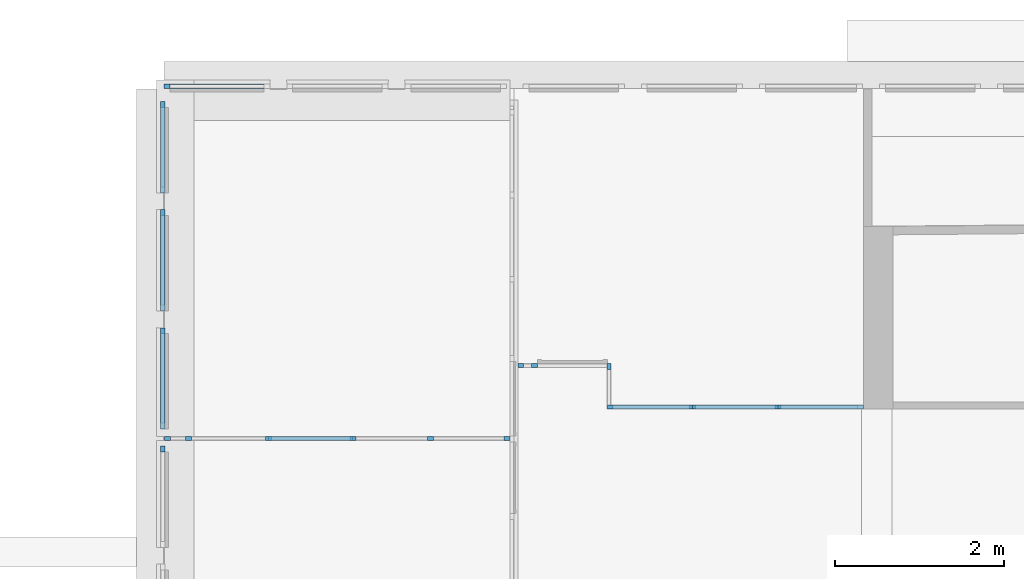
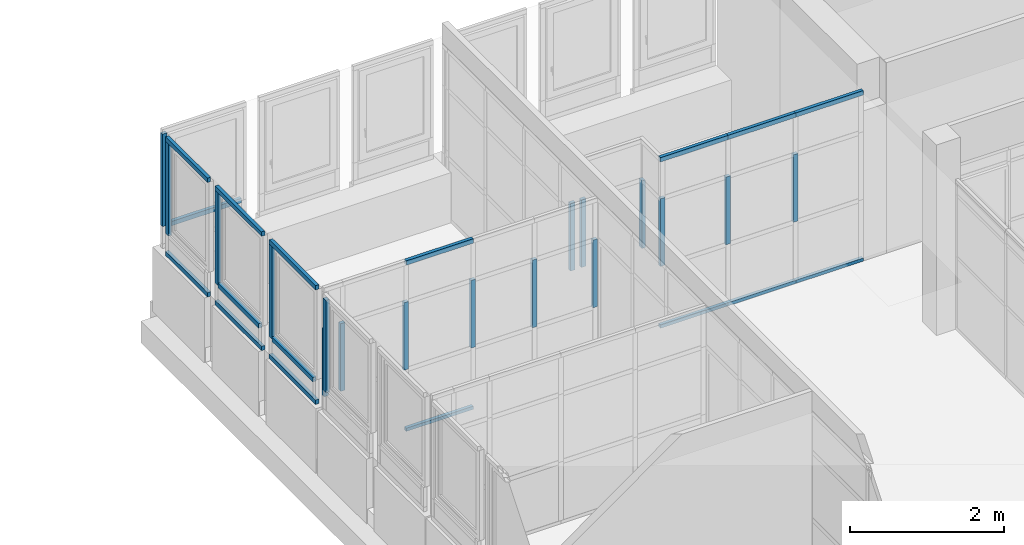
# One storey, part 10 of 97: 34 members, 9 elements without a shape of their own.
"""IFC4 building model written with IfcOpenShell, lengths in metres."""

from ifc_helpers import new_model, entity, si_unit, converted_unit, derived_unit, direction, frame, origin, place, context, subcontext, project, spatial, indexed_curve, outline, extrude, source, transform, mapped, material, type_object, type_shapes, element, aggregate, save


model = new_model("IFC4")

# Units and contexts
model_context = context("Model", 3, precision=1e-05, world=origin(), true_north=direction((6.12303176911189e-17, 1.0)))
body_context = subcontext(model_context, "Body", "Model", "MODEL_VIEW")
ifc_project = project(units=[si_unit("LENGTHUNIT", "METRE"), si_unit("AREAUNIT", "SQUARE_METRE"), si_unit("VOLUMEUNIT", "CUBIC_METRE"), converted_unit("PLANEANGLEUNIT", "DEGREE", entity("IfcRatioMeasure", 0.0174532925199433), si_unit("PLANEANGLEUNIT", "RADIAN"), dimensions=[0, 0, 0, 0, 0, 0, 0]), si_unit("MASSUNIT", "GRAM", prefix="KILO"), derived_unit("MASSDENSITYUNIT", [(si_unit("MASSUNIT", "GRAM", prefix="KILO"), 1), (si_unit("LENGTHUNIT", "METRE"), -3)]), derived_unit("MOMENTOFINERTIAUNIT", [(si_unit("LENGTHUNIT", "METRE"), 4)]), si_unit("TIMEUNIT", "SECOND"), si_unit("FREQUENCYUNIT", "HERTZ"), si_unit("THERMODYNAMICTEMPERATUREUNIT", "DEGREE_CELSIUS"), derived_unit("THERMALTRANSMITTANCEUNIT", [(si_unit("MASSUNIT", "GRAM", prefix="KILO"), 1), (si_unit("THERMODYNAMICTEMPERATUREUNIT", "KELVIN"), -1), (si_unit("TIMEUNIT", "SECOND"), -3)]), derived_unit("VOLUMETRICFLOWRATEUNIT", [(si_unit("LENGTHUNIT", "METRE"), 3), (si_unit("TIMEUNIT", "SECOND"), -1)]), si_unit("ELECTRICCURRENTUNIT", "AMPERE"), si_unit("ELECTRICVOLTAGEUNIT", "VOLT"), si_unit("POWERUNIT", "WATT"), si_unit("FORCEUNIT", "NEWTON", prefix="KILO"), si_unit("ILLUMINANCEUNIT", "LUX"), si_unit("LUMINOUSFLUXUNIT", "LUMEN"), si_unit("LUMINOUSINTENSITYUNIT", "CANDELA"), derived_unit("USERDEFINED", [(si_unit("MASSUNIT", "GRAM", prefix="KILO"), -1), (si_unit("LENGTHUNIT", "METRE"), -2), (si_unit("TIMEUNIT", "SECOND"), 3), (si_unit("LUMINOUSFLUXUNIT", "LUMEN"), 1)]), derived_unit("LINEARVELOCITYUNIT", [(si_unit("LENGTHUNIT", "METRE"), 1), (si_unit("TIMEUNIT", "SECOND"), -1)]), si_unit("PRESSUREUNIT", "PASCAL"), derived_unit("USERDEFINED", [(si_unit("LENGTHUNIT", "METRE"), -2), (si_unit("MASSUNIT", "GRAM", prefix="KILO"), 1), (si_unit("TIMEUNIT", "SECOND"), -2)]), derived_unit("LINEARFORCEUNIT", [(si_unit("MASSUNIT", "GRAM", prefix="KILO"), 1), (si_unit("LENGTHUNIT", "METRE"), 1), (si_unit("TIMEUNIT", "SECOND"), -2), (si_unit("LENGTHUNIT", "METRE"), -1)]), derived_unit("PLANARFORCEUNIT", [(si_unit("MASSUNIT", "GRAM", prefix="KILO"), 1), (si_unit("LENGTHUNIT", "METRE"), 1), (si_unit("TIMEUNIT", "SECOND"), -2), (si_unit("LENGTHUNIT", "METRE"), -2)])], contexts=[model_context])

# Site, building, storey
site_placement = place(None, origin())
site = spatial("IfcSite", under=ifc_project, at=site_placement, Name="Default", CompositionType="ELEMENT")
building_placement = place(site_placement, origin())
building = spatial("IfcBuilding", under=site, at=building_placement, Name="HOTEL CONSULAIRE BOULOGNE SUR MER", CompositionType="ELEMENT")
storey_placement = place(building_placement, frame((0.0, 0.0, 3.62152697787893)))
storey = spatial("IfcBuildingStorey", under=building, at=storey_placement, Name="Niveau 1", CompositionType="ELEMENT", Elevation=3.62152697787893)

# Curtain wall, member
curtain_wall_type = type_object("IfcCurtainWallType", Name="Mur-rideau:Simple panneau", PredefinedType="NOTDEFINED")
curtain_wall_1_placement = place(storey_placement, frame((0.0, 0.0, -3.62152697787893)))
curtain_wall_1 = element("IfcCurtainWall", 1, at=curtain_wall_1_placement, inside=storey, type_object=curtain_wall_type, Name="Mur-rideau:Simple panneau", ObjectType="Mur-rideau:Simple panneau", PredefinedType="NOTDEFINED")
ifc_material_1 = material(Name="PVC - Blanc", Category="Plastique")
member_type_1 = type_object("IfcMemberType", Name="Meneau rectangulaire:50 x 35", PredefinedType="MULLION", material=ifc_material_1)
shared_shape_1 = source(origin(), body_context, "Body", "SweptSolid", [
    extrude(outline(indexed_curve([(-0.025, -0.035), (0.025, -0.035), (0.025, 0.035), (-0.025, 0.035), (-0.025, -0.035)], self_intersect=False)), frame((-0.035, -0.025, -1.20000000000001), z_axis=(0.0, 0.0, 1.0), x_axis=(0.0, -1.0, 0.0)), (0.0, 0.0, 1.0), 1.20000000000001),
])
type_shapes(member_type_1, [shared_shape_1])
member_1_placement = place(storey_placement, frame((-13.7870998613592, -14.1114499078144, 0.791612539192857), z_axis=(0.0, -1.0, 0.0), x_axis=(0.0, 0.0, -1.0)))
member_1 = element("IfcMember", 2, at=member_1_placement, type_object=member_type_1, material=ifc_material_1, Name="Meneau rectangulaire:50 x 35", ObjectType="Meneau rectangulaire:50 x 35", PredefinedType="MULLION", context=body_context, shape_type="MappedRepresentation", body=[
    mapped(shared_shape_1, transform((0.0, 0.0, 0.0), scale=1.0)),
])

curtain_wall_2_placement = place(storey_placement, frame((0.0, 0.0, -3.62152697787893)))
curtain_wall_2 = element("IfcCurtainWall", 3, at=curtain_wall_2_placement, inside=storey, type_object=curtain_wall_type, Name="Mur-rideau:Simple panneau", ObjectType="Mur-rideau:Simple panneau", PredefinedType="NOTDEFINED")
member_2_placement = place(storey_placement, frame((-13.7870998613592, -12.7114499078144, 0.791612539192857), z_axis=(0.0, -1.0, 0.0), x_axis=(0.0, 0.0, -1.0)))
member_2 = element("IfcMember", 4, at=member_2_placement, type_object=member_type_1, material=ifc_material_1, Name="Meneau rectangulaire:50 x 35", ObjectType="Meneau rectangulaire:50 x 35", PredefinedType="MULLION", context=body_context, shape_type="MappedRepresentation", body=[
    mapped(shared_shape_1, transform((0.0, 0.0, 0.0), scale=1.0)),
])

# Member
member_type_2 = type_object("IfcMemberType", Name="Meneau rectangulaire:50 x 35", PredefinedType="MULLION", material=ifc_material_1)
shared_shape_2 = source(origin(), body_context, "Body", "SweptSolid", [
    extrude(outline(indexed_curve([(-0.025, -0.035), (0.025, -0.035), (0.025, 0.035), (-0.025, 0.035), (-0.025, -0.035)], self_intersect=False)), frame((0.0, -0.025, -1.06000000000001), z_axis=(0.0, 0.0, 1.0), x_axis=(0.0, -1.0, 0.0)), (0.0, 0.0, 1.0), 1.06000000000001),
])
type_shapes(member_type_2, [shared_shape_2])
member_3_placement = place(storey_placement, frame((-13.7870998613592, -12.9814499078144, 1.13961253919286), z_axis=(0.0, 1.0, 0.0), x_axis=(0.0, 0.0, 1.0)))
member_3 = element("IfcMember", 5, at=member_3_placement, type_object=member_type_2, material=ifc_material_1, Name="Meneau rectangulaire:50 x 35", ObjectType="Meneau rectangulaire:50 x 35", PredefinedType="MULLION", context=body_context, shape_type="MappedRepresentation", body=[
    mapped(shared_shape_2, transform((0.0, 0.0, 0.0), scale=1.0)),
])

member_4_placement = place(storey_placement, frame((-13.7870998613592, -11.5814499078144, 1.13961253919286), z_axis=(0.0, 1.0, 0.0), x_axis=(0.0, 0.0, 1.0)))
member_4 = element("IfcMember", 6, at=member_4_placement, type_object=member_type_2, material=ifc_material_1, Name="Meneau rectangulaire:50 x 35", ObjectType="Meneau rectangulaire:50 x 35", PredefinedType="MULLION", context=body_context, shape_type="MappedRepresentation", body=[
    mapped(shared_shape_2, transform((0.0, 0.0, 0.0), scale=1.0)),
])

# Curtain wall, member
curtain_wall_3_placement = place(storey_placement, frame((0.0, 0.0, -3.62152697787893)))
curtain_wall_3 = element("IfcCurtainWall", 7, at=curtain_wall_3_placement, inside=storey, type_object=curtain_wall_type, Name="Mur-rideau:Simple panneau", ObjectType="Mur-rideau:Simple panneau", PredefinedType="NOTDEFINED")
member_type_3 = type_object("IfcMemberType", Name="Meneau rectangulaire:50 x 35", PredefinedType="MULLION", material=ifc_material_1)
shared_shape_3 = source(origin(), body_context, "Body", "SweptSolid", [
    extrude(outline(indexed_curve([(-0.025, -0.035), (0.025, -0.035), (0.025, 0.035), (-0.025, 0.035), (-0.025, -0.035)], self_intersect=False)), frame((-0.035, -0.025, -1.46086048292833), z_axis=(0.0, 0.0, 1.0), x_axis=(0.0, -1.0, 0.0)), (0.0, 0.0, 1.0), 1.46086048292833),
])
type_shapes(member_type_3, [shared_shape_3])
member_5_placement = place(storey_placement, frame((-13.7870998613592, -14.3114499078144, 1.13961253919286), z_axis=(0.0, 0.0, -1.0), x_axis=(0.0, 1.0, 0.0)))
member_5 = element("IfcMember", 8, at=member_5_placement, type_object=member_type_3, material=ifc_material_1, Name="Meneau rectangulaire:50 x 35", ObjectType="Meneau rectangulaire:50 x 35", PredefinedType="MULLION", context=body_context, shape_type="MappedRepresentation", body=[
    mapped(shared_shape_3, transform((0.0, 0.0, 0.0), scale=1.0)),
])
aggregate(curtain_wall_3, [member_5])

# Member
member_6_placement = place(storey_placement, frame((-13.7870998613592, -12.9114499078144, 1.13961253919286), z_axis=(0.0, 0.0, -1.0), x_axis=(0.0, 1.0, 0.0)))
member_6 = element("IfcMember", 9, at=member_6_placement, type_object=member_type_3, material=ifc_material_1, Name="Meneau rectangulaire:50 x 35", ObjectType="Meneau rectangulaire:50 x 35", PredefinedType="MULLION", context=body_context, shape_type="MappedRepresentation", body=[
    mapped(shared_shape_3, transform((0.0, 0.0, 0.0), scale=1.0)),
])

member_7_placement = place(storey_placement, frame((-13.7870998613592, -11.5114499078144, 1.13961253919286), z_axis=(0.0, 0.0, -1.0), x_axis=(0.0, 1.0, 0.0)))
member_7 = element("IfcMember", 10, at=member_7_placement, type_object=member_type_3, material=ifc_material_1, Name="Meneau rectangulaire:50 x 35", ObjectType="Meneau rectangulaire:50 x 35", PredefinedType="MULLION", context=body_context, shape_type="MappedRepresentation", body=[
    mapped(shared_shape_3, transform((0.0, 0.0, 0.0), scale=1.0)),
])

# Curtain wall, member
curtain_wall_4_placement = place(storey_placement, frame((0.0, 0.0, -3.62152697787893)))
curtain_wall_4 = element("IfcCurtainWall", 11, at=curtain_wall_4_placement, inside=storey, type_object=curtain_wall_type, Name="Mur-rideau:Simple panneau", ObjectType="Mur-rideau:Simple panneau", PredefinedType="NOTDEFINED")
member_8_placement = place(storey_placement, frame((-13.7870998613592, -10.2303241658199, 1.13961253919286), z_axis=(0.0, 0.0, -1.0), x_axis=(0.0, 1.0, 0.0)))
member_8 = element("IfcMember", 12, at=member_8_placement, type_object=member_type_3, material=ifc_material_1, Name="Meneau rectangulaire:50 x 35", ObjectType="Meneau rectangulaire:50 x 35", PredefinedType="MULLION", context=body_context, shape_type="MappedRepresentation", body=[
    mapped(shared_shape_3, transform((0.0, 0.0, 0.0), scale=1.0)),
])

# Member
member_type_4 = type_object("IfcMemberType", Name="Meneau rectangulaire:50 x 35", PredefinedType="MULLION", material=ifc_material_1)
shared_shape_4 = source(origin(), body_context, "Body", "SweptSolid", [
    extrude(outline(indexed_curve([(-0.025, -0.035), (0.025, -0.035), (0.025, 0.035), (-0.025, 0.035), (-0.025, -0.035)], self_intersect=False)), frame((-0.035, -0.025, -1.20000000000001), z_axis=(0.0, 0.0, 1.0), x_axis=(0.0, -1.0, 0.0)), (0.0, 0.0, 1.0), 1.20000000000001),
])
type_shapes(member_type_4, [shared_shape_4])
member_9_placement = place(storey_placement, frame((-13.7870998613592, -12.9114499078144, 2.67047302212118), z_axis=(0.0, 1.0, 0.0), x_axis=(0.0, 0.0, 1.0)))
member_9 = element("IfcMember", 13, at=member_9_placement, type_object=member_type_4, material=ifc_material_1, Name="Meneau rectangulaire:50 x 35", ObjectType="Meneau rectangulaire:50 x 35", PredefinedType="MULLION", context=body_context, shape_type="MappedRepresentation", body=[
    mapped(shared_shape_4, transform((0.0, 0.0, 0.0), scale=1.0)),
])

aggregate(curtain_wall_1, [member_9, member_1, member_3, member_6])

member_10_placement = place(storey_placement, frame((-13.7870998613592, -11.5114499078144, 2.67047302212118), z_axis=(0.0, 1.0, 0.0), x_axis=(0.0, 0.0, 1.0)))
member_10 = element("IfcMember", 14, at=member_10_placement, type_object=member_type_4, material=ifc_material_1, Name="Meneau rectangulaire:50 x 35", ObjectType="Meneau rectangulaire:50 x 35", PredefinedType="MULLION", context=body_context, shape_type="MappedRepresentation", body=[
    mapped(shared_shape_4, transform((0.0, 0.0, 0.0), scale=1.0)),
])

aggregate(curtain_wall_2, [member_10, member_2, member_4, member_7])

member_type_5 = type_object("IfcMemberType", Name="Meneau rectangulaire:50 x 35", PredefinedType="MULLION", material=ifc_material_1)
shared_shape_5 = source(origin(), body_context, "Body", "SweptSolid", [
    extrude(outline(indexed_curve([(-0.025, -0.035), (0.025, -0.035), (0.025, 0.035), (-0.025, 0.035), (-0.025, -0.035)], self_intersect=False)), frame((-0.035, -0.025, -1.08112574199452), z_axis=(0.0, 0.0, 1.0), x_axis=(0.0, -1.0, 0.0)), (0.0, 0.0, 1.0), 1.08112574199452),
])
type_shapes(member_type_5, [shared_shape_5])
member_11_placement = place(storey_placement, frame((-13.7870998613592, -10.2303241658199, 2.67047302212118), z_axis=(0.0, 1.0, 0.0), x_axis=(0.0, 0.0, 1.0)))
member_11 = element("IfcMember", 15, at=member_11_placement, type_object=member_type_5, material=ifc_material_1, Name="Meneau rectangulaire:50 x 35", ObjectType="Meneau rectangulaire:50 x 35", PredefinedType="MULLION", context=body_context, shape_type="MappedRepresentation", body=[
    mapped(shared_shape_5, transform((0.0, 0.0, 0.0), scale=1.0)),
])

member_type_6 = type_object("IfcMemberType", Name="Meneau rectangulaire:50 x 35", PredefinedType="MULLION", material=ifc_material_1)
shared_shape_6 = source(origin(), body_context, "Body", "SweptSolid", [
    extrude(outline(indexed_curve([(-0.025, -0.035), (0.025, -0.035), (0.025, 0.035), (-0.025, 0.035), (-0.025, -0.035)], self_intersect=False)), frame((-0.035, -0.025, -1.08112574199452), z_axis=(0.0, 0.0, 1.0), x_axis=(0.0, -1.0, 0.0)), (0.0, 0.0, 1.0), 1.08112574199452),
])
type_shapes(member_type_6, [shared_shape_6])
member_12_placement = place(storey_placement, frame((-13.7870998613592, -11.3114499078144, 0.791612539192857), z_axis=(0.0, -1.0, 0.0), x_axis=(0.0, 0.0, -1.0)))
member_12 = element("IfcMember", 16, at=member_12_placement, type_object=member_type_6, material=ifc_material_1, Name="Meneau rectangulaire:50 x 35", ObjectType="Meneau rectangulaire:50 x 35", PredefinedType="MULLION", context=body_context, shape_type="MappedRepresentation", body=[
    mapped(shared_shape_6, transform((0.0, 0.0, 0.0), scale=1.0)),
])

aggregate(curtain_wall_4, [member_11, member_12, member_8])

# Curtain wall, members
curtain_wall_5_placement = place(storey_placement, frame((0.0, 0.0, -3.62152697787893)))
curtain_wall_5 = element("IfcCurtainWall", 17, at=curtain_wall_5_placement, inside=storey, type_object=curtain_wall_type, Name="Mur-rideau:Simple panneau", ObjectType="Mur-rideau:Simple panneau", PredefinedType="NOTDEFINED")
member_type_7 = type_object("IfcMemberType", Name="Meneau rectangulaire:50 x 35", PredefinedType="MULLION", material=ifc_material_1)
shared_shape_7 = source(origin(), body_context, "Body", "SweptSolid", [
    extrude(outline(indexed_curve([(-0.025, -0.035), (0.025, -0.035), (0.025, 0.035), (-0.025, 0.035), (-0.025, -0.035)], self_intersect=False)), frame((-0.035, -0.025, -1.46086048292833), z_axis=(0.0, 0.0, 1.0), x_axis=(0.0, -1.0, 0.0)), (0.0, 0.0, 1.0), 1.46086048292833),
])
type_shapes(member_type_7, [shared_shape_7])
member_13_placement = place(storey_placement, frame((-13.7939806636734, -10.0746323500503, 2.60047302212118), z_axis=(0.0, 0.0, 1.0), x_axis=(-1.0, 0.0, 0.0)))
member_13 = element("IfcMember", 18, at=member_13_placement, type_object=member_type_7, material=ifc_material_1, Name="Meneau rectangulaire:50 x 35", ObjectType="Meneau rectangulaire:50 x 35", PredefinedType="MULLION", context=body_context, shape_type="MappedRepresentation", body=[
    mapped(shared_shape_7, transform((0.0, 0.0, 0.0), scale=1.0)),
])
member_type_8 = type_object("IfcMemberType", Name="Meneau rectangulaire:50 x 35", PredefinedType="MULLION", material=ifc_material_1)
shared_shape_8 = source(origin(), body_context, "Body", "SweptSolid", [
    extrude(outline(indexed_curve([(-0.025, -0.035), (0.025, -0.035), (0.025, 0.035), (-0.025, 0.035), (-0.025, -0.035)], self_intersect=False)), frame((0.0, -0.025, -1.11256068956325), z_axis=(0.0, 0.0, 1.0), x_axis=(0.0, -1.0, 0.0)), (0.0, 0.0, 1.0), 1.11256068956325),
])
type_shapes(member_type_8, [shared_shape_8])
member_14_placement = place(storey_placement, frame((-12.6114199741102, -10.0746323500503, 1.13961253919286), z_axis=(1.0, 0.0, 0.0), x_axis=(0.0, 0.0, 1.0)))
member_14 = element("IfcMember", 19, at=member_14_placement, type_object=member_type_8, material=ifc_material_1, Name="Meneau rectangulaire:50 x 35", ObjectType="Meneau rectangulaire:50 x 35", PredefinedType="MULLION", context=body_context, shape_type="MappedRepresentation", body=[
    mapped(shared_shape_8, transform((0.0, 0.0, 0.0), scale=1.0)),
])
aggregate(curtain_wall_5, [member_14, member_13])

curtain_wall_6_placement = place(storey_placement, frame((0.0, 0.0, -3.62152697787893)))
curtain_wall_6 = element("IfcCurtainWall", 20, at=curtain_wall_6_placement, inside=storey, type_object=curtain_wall_type, Name="Mur-rideau:Simple panneau", ObjectType="Mur-rideau:Simple panneau", PredefinedType="NOTDEFINED")
ifc_material_2 = material(Name="PVC, souple", Category="Plastique")
member_type_9 = type_object("IfcMemberType", Name="Meneau rectangulaire:50 x 35 pvc gris", PredefinedType="MULLION", material=ifc_material_2)
shared_shape_9 = source(origin(), body_context, "Body", "SweptSolid", [
    extrude(outline(indexed_curve([(-0.025, -0.035), (0.025, -0.035), (0.025, 0.035), (-0.025, 0.035), (-0.025, -0.035)], self_intersect=False)), frame((-0.035, -0.025, -1.06896046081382), z_axis=(0.0, 0.0, 1.0), x_axis=(0.0, -1.0, 0.0)), (0.0, 0.0, 1.0), 1.06896046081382),
])
type_shapes(member_type_9, [shared_shape_9])
member_15_placement = place(storey_placement, frame((-13.7881025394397, -14.2474499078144, 2.04596046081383), z_axis=(0.0, 0.0, 1.0), x_axis=(-1.0, 0.0, 0.0)))
member_15 = element("IfcMember", 21, at=member_15_placement, type_object=member_type_9, material=ifc_material_2, Name="Meneau rectangulaire:50 x 35 pvc gris", ObjectType="Meneau rectangulaire:50 x 35 pvc gris", PredefinedType="MULLION", context=body_context, shape_type="MappedRepresentation", body=[
    mapped(shared_shape_9, transform((0.0, 0.0, 0.0), scale=1.0)),
])
member_type_10 = type_object("IfcMemberType", Name="Meneau rectangulaire:50 x 35 pvc gris", PredefinedType="MULLION", material=ifc_material_2)
shared_shape_10 = source(origin(), body_context, "Body", "SweptSolid", [
    extrude(outline(indexed_curve([(-0.025, -0.035), (0.025, -0.035), (0.025, 0.035), (-0.025, 0.035), (-0.025, -0.035)], self_intersect=False)), frame((0.0, -0.025, -1.06896046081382), z_axis=(0.0, 0.0, 1.0), x_axis=(0.0, -1.0, 0.0)), (0.0, 0.0, 1.0), 1.06896046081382),
])
type_shapes(member_type_10, [shared_shape_10])
member_16_placement = place(storey_placement, frame((-13.5061025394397, -14.2474499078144, 0.977000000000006), z_axis=(0.0, 0.0, -1.0), x_axis=(1.0, 0.0, 0.0)))
member_16 = element("IfcMember", 22, at=member_16_placement, type_object=member_type_10, material=ifc_material_2, Name="Meneau rectangulaire:50 x 35 pvc gris", ObjectType="Meneau rectangulaire:50 x 35 pvc gris", PredefinedType="MULLION", context=body_context, shape_type="MappedRepresentation", body=[
    mapped(shared_shape_10, transform((0.0, 0.0, 0.0), scale=1.0)),
])
member_17_placement = place(storey_placement, frame((-12.5580998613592, -14.2474499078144, 0.977000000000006), z_axis=(0.0, 0.0, -1.0), x_axis=(1.0, 0.0, 0.0)))
member_17 = element("IfcMember", 23, at=member_17_placement, type_object=member_type_10, material=ifc_material_2, Name="Meneau rectangulaire:50 x 35 pvc gris", ObjectType="Meneau rectangulaire:50 x 35 pvc gris", PredefinedType="MULLION", context=body_context, shape_type="MappedRepresentation", body=[
    mapped(shared_shape_10, transform((0.0, 0.0, 0.0), scale=1.0)),
])
member_18_placement = place(storey_placement, frame((-11.5550998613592, -14.2474499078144, 0.977000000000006), z_axis=(0.0, 0.0, -1.0), x_axis=(1.0, 0.0, 0.0)))
member_18 = element("IfcMember", 24, at=member_18_placement, type_object=member_type_10, material=ifc_material_2, Name="Meneau rectangulaire:50 x 35 pvc gris", ObjectType="Meneau rectangulaire:50 x 35 pvc gris", PredefinedType="MULLION", context=body_context, shape_type="MappedRepresentation", body=[
    mapped(shared_shape_10, transform((0.0, 0.0, 0.0), scale=1.0)),
])
member_19_placement = place(storey_placement, frame((-10.6380998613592, -14.2474499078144, 0.977000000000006), z_axis=(0.0, 0.0, -1.0), x_axis=(1.0, 0.0, 0.0)))
member_19 = element("IfcMember", 25, at=member_19_placement, type_object=member_type_10, material=ifc_material_2, Name="Meneau rectangulaire:50 x 35 pvc gris", ObjectType="Meneau rectangulaire:50 x 35 pvc gris", PredefinedType="MULLION", context=body_context, shape_type="MappedRepresentation", body=[
    mapped(shared_shape_10, transform((0.0, 0.0, 0.0), scale=1.0)),
])

# Curtain wall, member
curtain_wall_7_placement = place(storey_placement, frame((0.0, 0.0, -3.62152697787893)))
curtain_wall_7 = element("IfcCurtainWall", 26, at=curtain_wall_7_placement, inside=storey, type_object=curtain_wall_type, Name="Mur-rideau:Simple panneau", ObjectType="Mur-rideau:Simple panneau", PredefinedType="NOTDEFINED")
member_20_placement = place(storey_placement, frame((-9.40862464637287, -13.3345509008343, 0.977000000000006), z_axis=(0.0, 0.0, -1.0), x_axis=(-1.0, 0.0, 0.0)))
member_20 = element("IfcMember", 27, at=member_20_placement, type_object=member_type_10, material=ifc_material_2, Name="Meneau rectangulaire:50 x 35 pvc gris", ObjectType="Meneau rectangulaire:50 x 35 pvc gris", PredefinedType="MULLION", context=body_context, shape_type="MappedRepresentation", body=[
    mapped(shared_shape_10, transform((0.0, 0.0, 0.0), scale=1.0)),
])

# Curtain wall, members
curtain_wall_8_placement = place(storey_placement, frame((0.0, 0.0, -3.62152697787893)))
curtain_wall_8 = element("IfcCurtainWall", 28, at=curtain_wall_8_placement, inside=storey, type_object=curtain_wall_type, Name="Mur-rideau:Simple panneau", ObjectType="Mur-rideau:Simple panneau", PredefinedType="NOTDEFINED")
member_21_placement = place(storey_placement, frame((-6.52117125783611, -13.8259141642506, 0.977000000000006), z_axis=(0.0, 0.0, -1.0), x_axis=(-1.0, 0.0, 0.0)))
member_21 = element("IfcMember", 29, at=member_21_placement, type_object=member_type_10, material=ifc_material_2, Name="Meneau rectangulaire:50 x 35 pvc gris", ObjectType="Meneau rectangulaire:50 x 35 pvc gris", PredefinedType="MULLION", context=body_context, shape_type="MappedRepresentation", body=[
    mapped(shared_shape_10, transform((0.0, 0.0, 0.0), scale=1.0)),
])
member_22_placement = place(storey_placement, frame((-7.53256933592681, -13.8259141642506, 0.977000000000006), z_axis=(0.0, 0.0, -1.0), x_axis=(-1.0, 0.0, 0.0)))
member_22 = element("IfcMember", 30, at=member_22_placement, type_object=member_type_10, material=ifc_material_2, Name="Meneau rectangulaire:50 x 35 pvc gris", ObjectType="Meneau rectangulaire:50 x 35 pvc gris", PredefinedType="MULLION", context=body_context, shape_type="MappedRepresentation", body=[
    mapped(shared_shape_10, transform((0.0, 0.0, 0.0), scale=1.0)),
])

# Member
member_type_11 = type_object("IfcMemberType", Name="Meneau rectangulaire:50 x 35 pvc gris", PredefinedType="MULLION", material=ifc_material_2)
shared_shape_11 = source(origin(), body_context, "Body", "SweptSolid", [
    extrude(outline(indexed_curve([(-0.025, -0.035), (0.025, -0.035), (0.025, 0.035), (-0.025, 0.035), (-0.025, -0.035)], self_intersect=False)), frame((-0.035, -0.025, -1.06896046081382), z_axis=(0.0, 0.0, 1.0), x_axis=(0.0, -1.0, 0.0)), (0.0, 0.0, 1.0), 1.06896046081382),
])
type_shapes(member_type_11, [shared_shape_11])
member_23_placement = place(storey_placement, frame((-9.69962464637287, -14.2474499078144, 0.977000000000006), z_axis=(0.0, 0.0, -1.0), x_axis=(1.0, 0.0, 0.0)))
member_23 = element("IfcMember", 31, at=member_23_placement, type_object=member_type_11, material=ifc_material_2, Name="Meneau rectangulaire:50 x 35 pvc gris", ObjectType="Meneau rectangulaire:50 x 35 pvc gris", PredefinedType="MULLION", context=body_context, shape_type="MappedRepresentation", body=[
    mapped(shared_shape_11, transform((0.0, 0.0, 0.0), scale=1.0)),
])

member_24_placement = place(storey_placement, frame((-9.60462464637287, -13.3345509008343, 0.977000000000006), z_axis=(0.0, 0.0, -1.0), x_axis=(-1.0, 0.0, 0.0)))
member_24 = element("IfcMember", 32, at=member_24_placement, type_object=member_type_11, material=ifc_material_2, Name="Meneau rectangulaire:50 x 35 pvc gris", ObjectType="Meneau rectangulaire:50 x 35 pvc gris", PredefinedType="MULLION", context=body_context, shape_type="MappedRepresentation", body=[
    mapped(shared_shape_11, transform((0.0, 0.0, 0.0), scale=1.0)),
])

aggregate(curtain_wall_7, [member_20, member_24])

member_25_placement = place(storey_placement, frame((-8.54396741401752, -13.8259141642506, 0.977000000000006), z_axis=(0.0, 0.0, -1.0), x_axis=(-1.0, 0.0, 0.0)))
member_25 = element("IfcMember", 33, at=member_25_placement, type_object=member_type_11, material=ifc_material_2, Name="Meneau rectangulaire:50 x 35 pvc gris", ObjectType="Meneau rectangulaire:50 x 35 pvc gris", PredefinedType="MULLION", context=body_context, shape_type="MappedRepresentation", body=[
    mapped(shared_shape_11, transform((0.0, 0.0, 0.0), scale=1.0)),
])

# Curtain wall, member
curtain_wall_9_placement = place(storey_placement, frame((0.0, 0.0, -3.62152697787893)))
curtain_wall_9 = element("IfcCurtainWall", 34, at=curtain_wall_9_placement, inside=storey, type_object=curtain_wall_type, Name="Mur-rideau:Simple panneau", ObjectType="Mur-rideau:Simple panneau", PredefinedType="NOTDEFINED")
member_26_placement = place(storey_placement, frame((-8.49896741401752, -13.3345509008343, 0.977000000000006), z_axis=(0.0, 0.0, -1.0), x_axis=(0.0, 1.0, 0.0)))
member_26 = element("IfcMember", 35, at=member_26_placement, type_object=member_type_11, material=ifc_material_2, Name="Meneau rectangulaire:50 x 35 pvc gris", ObjectType="Meneau rectangulaire:50 x 35 pvc gris", PredefinedType="MULLION", context=body_context, shape_type="MappedRepresentation", body=[
    mapped(shared_shape_11, transform((0.0, 0.0, 0.0), scale=1.0)),
])
aggregate(curtain_wall_9, [member_26])

# Member
member_type_12 = type_object("IfcMemberType", Name="Meneau rectangulaire:50 x 25mm pvc gris", PredefinedType="MULLION", material=ifc_material_2)
shared_shape_12 = source(origin(), body_context, "Body", "SweptSolid", [
    extrude(outline(indexed_curve([(-0.025, -0.025), (0.025, -0.025), (0.025, 0.025), (-0.025, 0.025), (-0.025, -0.025)], self_intersect=False)), frame((-0.025, -0.025, -1.003), z_axis=(0.0, 0.0, 1.0), x_axis=(0.0, -1.0, 0.0)), (0.0, 0.0, 1.0), 1.003),
])
type_shapes(member_type_12, [shared_shape_12])
member_27_placement = place(storey_placement, frame((-12.5580998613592, -14.2474499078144, 0.0), z_axis=(-1.0, 0.0, 0.0), x_axis=(0.0, 0.0, -1.0)))
member_27 = element("IfcMember", 36, at=member_27_placement, type_object=member_type_12, material=ifc_material_2, Name="Meneau rectangulaire:50 x 25mm pvc gris", ObjectType="Meneau rectangulaire:50 x 25mm pvc gris", PredefinedType="MULLION", context=body_context, shape_type="MappedRepresentation", body=[
    mapped(shared_shape_12, transform((0.0, 0.0, 0.0), scale=1.0)),
])

member_type_13 = type_object("IfcMemberType", Name="Meneau rectangulaire:50 x 35 pvc gris", PredefinedType="MULLION", material=ifc_material_2)
shared_shape_13 = source(origin(), body_context, "Body", "SweptSolid", [
    extrude(outline(indexed_curve([(-0.025, -0.035), (0.025, -0.035), (0.025, 0.035), (-0.025, 0.035), (-0.025, -0.035)], self_intersect=False)), frame((-0.035, -0.025, -1.003), z_axis=(0.0, 0.0, 1.0), x_axis=(0.0, -1.0, 0.0)), (0.0, 0.0, 1.0), 1.003),
])
type_shapes(member_type_13, [shared_shape_13])
member_28_placement = place(storey_placement, frame((-11.5550998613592, -14.2474499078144, 2.69696046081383), z_axis=(1.0, 0.0, 0.0), x_axis=(0.0, 0.0, 1.0)))
member_28 = element("IfcMember", 37, at=member_28_placement, type_object=member_type_13, material=ifc_material_2, Name="Meneau rectangulaire:50 x 35 pvc gris", ObjectType="Meneau rectangulaire:50 x 35 pvc gris", PredefinedType="MULLION", context=body_context, shape_type="MappedRepresentation", body=[
    mapped(shared_shape_13, transform((0.0, 0.0, 0.0), scale=1.0)),
])

aggregate(curtain_wall_6, [member_27, member_15, member_16, member_28, member_17, member_18, member_19, member_23])

member_type_14 = type_object("IfcMemberType", Name="Meneau rectangulaire:50 x 35 pvc gris", PredefinedType="MULLION", material=ifc_material_2)
shared_shape_14 = source(origin(), body_context, "Body", "SweptSolid", [
    extrude(outline(indexed_curve([(-0.025, -0.035), (0.025, -0.035), (0.025, 0.035), (-0.025, 0.035), (-0.025, -0.035)], self_intersect=False)), frame((-0.035, -0.025, -1.01139807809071), z_axis=(0.0, 0.0, 1.0), x_axis=(0.0, -1.0, 0.0)), (0.0, 0.0, 1.0), 1.01139807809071),
])
type_shapes(member_type_14, [shared_shape_14])
member_29_placement = place(storey_placement, frame((-7.53256933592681, -13.8259141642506, 2.69696046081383), z_axis=(-1.0, 0.0, 0.0), x_axis=(0.0, 0.0, 1.0)))
member_29 = element("IfcMember", 38, at=member_29_placement, type_object=member_type_14, material=ifc_material_2, Name="Meneau rectangulaire:50 x 35 pvc gris", ObjectType="Meneau rectangulaire:50 x 35 pvc gris", PredefinedType="MULLION", context=body_context, shape_type="MappedRepresentation", body=[
    mapped(shared_shape_14, transform((0.0, 0.0, 0.0), scale=1.0)),
])

member_type_15 = type_object("IfcMemberType", Name="Meneau rectangulaire:50 x 35 pvc gris", PredefinedType="MULLION", material=ifc_material_2)
shared_shape_15 = source(origin(), body_context, "Body", "SweptSolid", [
    extrude(outline(indexed_curve([(-0.025, -0.035), (0.025, -0.035), (0.025, 0.035), (-0.025, 0.035), (-0.025, -0.035)], self_intersect=False)), frame((-0.035, -0.025, -1.01139807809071), z_axis=(0.0, 0.0, 1.0), x_axis=(0.0, -1.0, 0.0)), (0.0, 0.0, 1.0), 1.01139807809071),
])
type_shapes(member_type_15, [shared_shape_15])
member_30_placement = place(storey_placement, frame((-6.52117125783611, -13.8259141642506, 2.69696046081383), z_axis=(-1.0, 0.0, 0.0), x_axis=(0.0, 0.0, 1.0)))
member_30 = element("IfcMember", 39, at=member_30_placement, type_object=member_type_15, material=ifc_material_2, Name="Meneau rectangulaire:50 x 35 pvc gris", ObjectType="Meneau rectangulaire:50 x 35 pvc gris", PredefinedType="MULLION", context=body_context, shape_type="MappedRepresentation", body=[
    mapped(shared_shape_15, transform((0.0, 0.0, 0.0), scale=1.0)),
])

member_type_16 = type_object("IfcMemberType", Name="Meneau rectangulaire:50 x 35 pvc gris", PredefinedType="MULLION", material=ifc_material_2)
shared_shape_16 = source(origin(), body_context, "Body", "SweptSolid", [
    extrude(outline(indexed_curve([(-0.025, -0.035), (0.025, -0.035), (0.025, 0.035), (-0.025, 0.035), (-0.025, -0.035)], self_intersect=False)), frame((-0.035, -0.025, -1.01139807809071), z_axis=(0.0, 0.0, 1.0), x_axis=(0.0, -1.0, 0.0)), (0.0, 0.0, 1.0), 1.01139807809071),
])
type_shapes(member_type_16, [shared_shape_16])
member_31_placement = place(storey_placement, frame((-8.54396741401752, -13.8259141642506, 2.69696046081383), z_axis=(-1.0, 0.0, 0.0), x_axis=(0.0, 0.0, 1.0)))
member_31 = element("IfcMember", 40, at=member_31_placement, type_object=member_type_16, material=ifc_material_2, Name="Meneau rectangulaire:50 x 35 pvc gris", ObjectType="Meneau rectangulaire:50 x 35 pvc gris", PredefinedType="MULLION", context=body_context, shape_type="MappedRepresentation", body=[
    mapped(shared_shape_16, transform((0.0, 0.0, 0.0), scale=1.0)),
])

member_type_17 = type_object("IfcMemberType", Name="Meneau rectangulaire:50 x 25mm pvc gris", PredefinedType="MULLION", material=ifc_material_2)
shared_shape_17 = source(origin(), body_context, "Body", "SweptSolid", [
    extrude(outline(indexed_curve([(-0.025, -0.025), (0.025, -0.025), (0.025, 0.025), (-0.025, 0.025), (-0.025, -0.025)], self_intersect=False)), frame((-0.025, -0.025, -1.01139807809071), z_axis=(0.0, 0.0, 1.0), x_axis=(0.0, -1.0, 0.0)), (0.0, 0.0, 1.0), 1.01139807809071),
])
type_shapes(member_type_17, [shared_shape_17])
member_32_placement = place(storey_placement, frame((-7.53256933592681, -13.8259141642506, 0.0), z_axis=(1.0, 0.0, 0.0), x_axis=(0.0, 0.0, -1.0)))
member_32 = element("IfcMember", 41, at=member_32_placement, type_object=member_type_17, material=ifc_material_2, Name="Meneau rectangulaire:50 x 25mm pvc gris", ObjectType="Meneau rectangulaire:50 x 25mm pvc gris", PredefinedType="MULLION", context=body_context, shape_type="MappedRepresentation", body=[
    mapped(shared_shape_17, transform((0.0, 0.0, 0.0), scale=1.0)),
])

member_type_18 = type_object("IfcMemberType", Name="Meneau rectangulaire:50 x 25mm pvc gris", PredefinedType="MULLION", material=ifc_material_2)
shared_shape_18 = source(origin(), body_context, "Body", "SweptSolid", [
    extrude(outline(indexed_curve([(-0.025, -0.025), (0.025, -0.025), (0.025, 0.025), (-0.025, 0.025), (-0.025, -0.025)], self_intersect=False)), frame((-0.025, -0.025, -1.01139807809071), z_axis=(0.0, 0.0, 1.0), x_axis=(0.0, -1.0, 0.0)), (0.0, 0.0, 1.0), 1.01139807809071),
])
type_shapes(member_type_18, [shared_shape_18])
member_33_placement = place(storey_placement, frame((-6.52117125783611, -13.8259141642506, 0.0), z_axis=(1.0, 0.0, 0.0), x_axis=(0.0, 0.0, -1.0)))
member_33 = element("IfcMember", 42, at=member_33_placement, type_object=member_type_18, material=ifc_material_2, Name="Meneau rectangulaire:50 x 25mm pvc gris", ObjectType="Meneau rectangulaire:50 x 25mm pvc gris", PredefinedType="MULLION", context=body_context, shape_type="MappedRepresentation", body=[
    mapped(shared_shape_18, transform((0.0, 0.0, 0.0), scale=1.0)),
])

member_type_19 = type_object("IfcMemberType", Name="Meneau rectangulaire:50 x 25mm pvc gris", PredefinedType="MULLION", material=ifc_material_2)
shared_shape_19 = source(origin(), body_context, "Body", "SweptSolid", [
    extrude(outline(indexed_curve([(-0.025, -0.025), (0.025, -0.025), (0.025, 0.025), (-0.025, 0.025), (-0.025, -0.025)], self_intersect=False)), frame((-0.025, -0.025, -1.01139807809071), z_axis=(0.0, 0.0, 1.0), x_axis=(0.0, -1.0, 0.0)), (0.0, 0.0, 1.0), 1.01139807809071),
])
type_shapes(member_type_19, [shared_shape_19])
member_34_placement = place(storey_placement, frame((-5.5097731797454, -13.8259141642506, 0.0), z_axis=(1.0, 0.0, 0.0), x_axis=(0.0, 0.0, -1.0)))
member_34 = element("IfcMember", 43, at=member_34_placement, type_object=member_type_19, material=ifc_material_2, Name="Meneau rectangulaire:50 x 25mm pvc gris", ObjectType="Meneau rectangulaire:50 x 25mm pvc gris", PredefinedType="MULLION", context=body_context, shape_type="MappedRepresentation", body=[
    mapped(shared_shape_19, transform((0.0, 0.0, 0.0), scale=1.0)),
])

aggregate(curtain_wall_8, [member_29, member_30, member_31, member_21, member_22, member_25, member_32, member_33, member_34])

save(model, "model.ifc")
